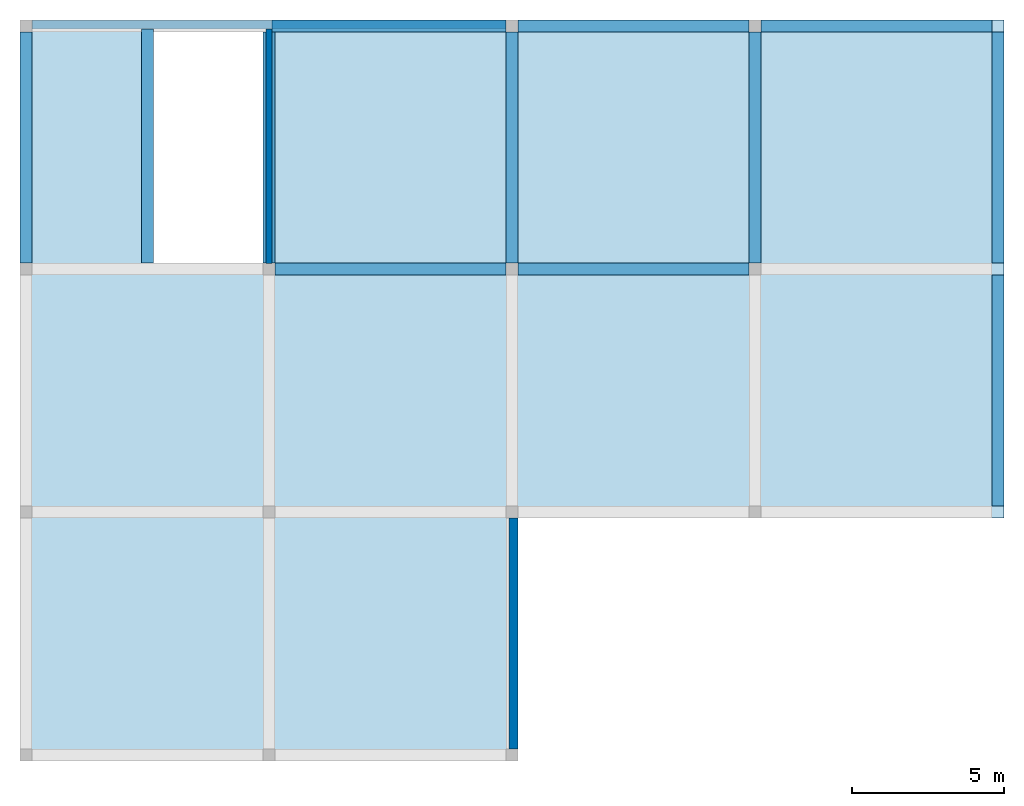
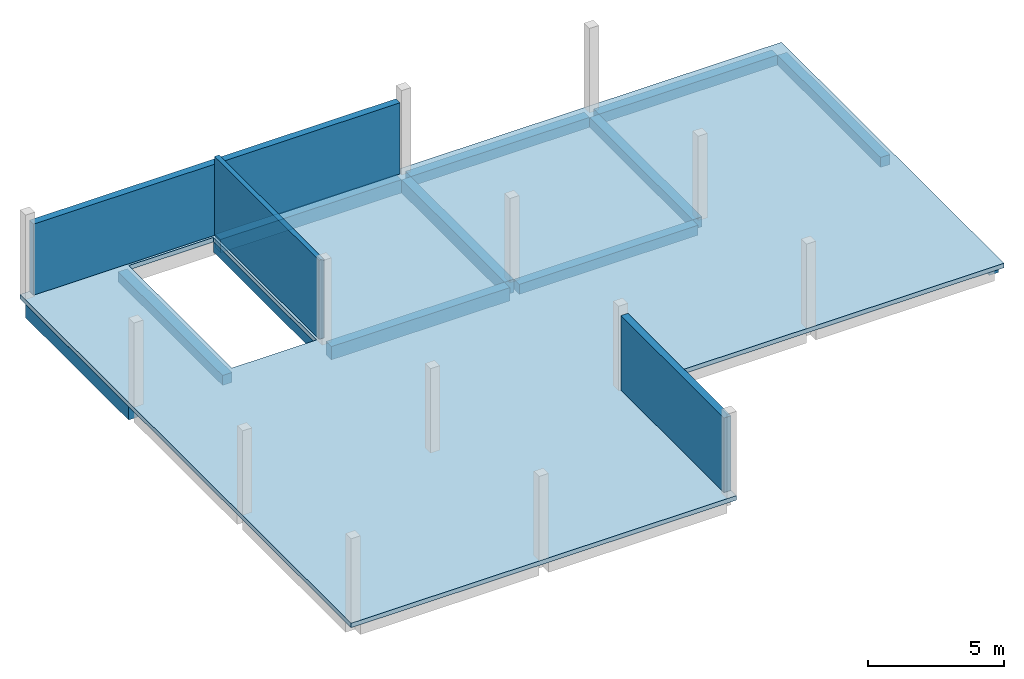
# One storey, part 2 of 3: 12 beams, 3 walls, 1 slab, 1 opening.
"""IFC4X3_ADD2 building model written with IfcOpenShell, lengths in millimetres."""

from ifc_helpers import new_model, entity, si_unit, converted_unit, derived_unit, direction, frame, frame_2d, origin, place, context, subcontext, project, spatial, polyline, rectangle, outline, extrude, boolean, source, transform, mapped, material, layer, layer_set, layer_usage, material_profile, profile_set, type_object, type_shapes, element, save


model = new_model("IFC4X3_ADD2")

# Units and contexts
model_context = context("Model", 3, precision=0.01, world=origin(), true_north=direction((6.123233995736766e-17, 1.0)))
plan_context = context("Plan", 3, precision=0.01, world=origin(), true_north=direction((6.123233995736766e-17, 1.0)))
body_context = subcontext(model_context, "Body", "Model", "MODEL_VIEW")
ifc_project = project(units=[si_unit("LENGTHUNIT", "METRE", prefix="MILLI"), converted_unit("PLANEANGLEUNIT", "DEGREE", entity("IfcPlaneAngleMeasure", 0.017453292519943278), si_unit("PLANEANGLEUNIT", "RADIAN"), dimensions=[0, 0, 0, 0, 0, 0, 0]), si_unit("AREAUNIT", "SQUARE_METRE"), si_unit("VOLUMEUNIT", "CUBIC_METRE"), derived_unit("THERMALTRANSMITTANCEUNIT", [(si_unit("MASSUNIT", "GRAM", prefix="KILO"), 1), (si_unit("THERMODYNAMICTEMPERATUREUNIT", "KELVIN"), -1), (si_unit("TIMEUNIT", "SECOND"), -3)]), derived_unit("USERDEFINED", [(si_unit("MASSUNIT", "GRAM", prefix="KILO"), 1), (si_unit("THERMODYNAMICTEMPERATUREUNIT", "KELVIN"), -1), (si_unit("TIMEUNIT", "SECOND"), -2)]), derived_unit("THERMALRESISTANCEUNIT", [(si_unit("MASSUNIT", "GRAM", prefix="KILO"), -1), (si_unit("TIMEUNIT", "SECOND"), 3), (si_unit("THERMODYNAMICTEMPERATUREUNIT", "KELVIN"), 1)]), si_unit("PRESSUREUNIT", "PASCAL"), derived_unit("MASSDENSITYUNIT", [(si_unit("MASSUNIT", "GRAM", prefix="KILO"), 1), (si_unit("LENGTHUNIT", "METRE"), -3)]), derived_unit("MODULUSOFELASTICITYUNIT", [(si_unit("MASSUNIT", "GRAM", prefix="KILO"), 1), (si_unit("TIMEUNIT", "SECOND"), -2), (si_unit("LENGTHUNIT", "METRE"), -1)]), derived_unit("THERMALEXPANSIONCOEFFICIENTUNIT", [(si_unit("THERMODYNAMICTEMPERATUREUNIT", "KELVIN"), -1)]), derived_unit("VAPORPERMEABILITYUNIT", [(si_unit("LENGTHUNIT", "METRE"), -1), (si_unit("TIMEUNIT", "SECOND"), 1)]), derived_unit("USERDEFINED", [(si_unit("MASSUNIT", "GRAM", prefix="KILO"), 1), (si_unit("TIMEUNIT", "SECOND"), -3), (si_unit("LENGTHUNIT", "METRE"), 3), (si_unit("ELECTRICCURRENTUNIT", "AMPERE"), -2)]), derived_unit("SPECIFICHEATCAPACITYUNIT", [(si_unit("THERMODYNAMICTEMPERATUREUNIT", "KELVIN"), -1), (si_unit("TIMEUNIT", "SECOND"), -2), (si_unit("LENGTHUNIT", "METRE"), 2)]), derived_unit("THERMALCONDUCTANCEUNIT", [(si_unit("MASSUNIT", "GRAM", prefix="KILO"), 1), (si_unit("THERMODYNAMICTEMPERATUREUNIT", "KELVIN"), -1), (si_unit("TIMEUNIT", "SECOND"), -3), (si_unit("LENGTHUNIT", "METRE"), 1)])], contexts=[model_context, plan_context])

# Site, building, storey
site_placement = place(None, origin())
site = spatial("IfcSite", under=ifc_project, at=site_placement, Name="Default", CompositionType="ELEMENT")
building_placement = place(site_placement, origin())
building = spatial("IfcBuilding", under=site, at=building_placement, Name="Building Name", CompositionType="ELEMENT")
storey_placement = place(building_placement, frame((0.0, 0.0, 12000.0)))
storey = spatial("IfcBuildingStorey", under=building, at=storey_placement, Name="L4", CompositionType="ELEMENT", Elevation=12000.00000000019)

# Beams
ifc_material_1 = material(Name="Concrete - Cast-in-Place Concrete", Category="Concrete")
ifc_material_profile_1 = material_profile(ifc_material_1, rectangle(XDim=600.0, YDim=400.0000000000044, at=frame_2d((-1.0942358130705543e-12, 2.842170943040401e-14), x_axis=(0.0, 1.0))), Name="400 x 600mm")
ifc_profile_set_1 = profile_set([ifc_material_profile_1], Name="400 x 600mm")
beam_type_1 = type_object("IfcBeamType", Name="Concrete - Rectangular Beam:400 x 600mm", PredefinedType="BEAM", material=ifc_profile_set_1)
shared_shape_1 = source(origin(), body_context, "Body", "SweptSolid", [
    extrude(rectangle(XDim=600.0, YDim=400.00000000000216, at=frame_2d((-1.0942358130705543e-12, -1.0800249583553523e-12), x_axis=(0.0, 1.0))), frame((-12967.95123677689, 11896.696870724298, 11500.0), z_axis=(0.0, -1.0, 0.0), x_axis=(-1.0, 0.0, 0.0)), (0.0, 0.0, 1.0), 7600.000000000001),
])
type_shapes(beam_type_1, [shared_shape_1])
beam_1_placement = place(storey_placement, frame((0.0, 0.0, -12000.0)))
element("IfcBeam", 1, at=beam_1_placement, inside=storey, type_object=beam_type_1, Name="Concrete - Rectangular Beam:400 x 600mm", ObjectType="Concrete - Rectangular Beam:400 x 600mm", PredefinedType="BEAM", context=body_context, shape_type="MappedRepresentation", body=[
    mapped(shared_shape_1, transform((0.0, 0.0, 0.0), scale=1.0)),
])
beam_type_2 = type_object("IfcBeamType", Name="Concrete - Rectangular Beam:400 x 600mm", PredefinedType="BEAM", material=ifc_profile_set_1)
shared_shape_2 = source(origin(), body_context, "Body", "SweptSolid", [
    extrude(rectangle(XDim=600.0, YDim=400.0000000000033, at=frame_2d((-5.400124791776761e-13, -1.0800249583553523e-12), x_axis=(0.0, 1.0))), frame((3032.0487632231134, 11896.696870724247, 11500.0), z_axis=(0.0, -1.0, 0.0), x_axis=(-1.0, 0.0, 0.0)), (0.0, 0.0, 1.0), 7600.000000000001),
])
type_shapes(beam_type_2, [shared_shape_2])
beam_2_placement = place(storey_placement, frame((0.0, 0.0, -12000.0)))
element("IfcBeam", 2, at=beam_2_placement, inside=storey, type_object=beam_type_2, Name="Concrete - Rectangular Beam:400 x 600mm", ObjectType="Concrete - Rectangular Beam:400 x 600mm", PredefinedType="BEAM", context=body_context, shape_type="MappedRepresentation", body=[
    mapped(shared_shape_2, transform((0.0, 0.0, 0.0), scale=1.0)),
])
ifc_material_profile_2 = material_profile(ifc_material_1, rectangle(XDim=450.0, YDim=400.00000000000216, at=frame_2d((-1.0942358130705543e-12, 2.7000623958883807e-13), x_axis=(0.0, 1.0))), Name="400 x 450mm")
ifc_profile_set_2 = profile_set([ifc_material_profile_2], Name="400 x 450mm")
beam_type_3 = type_object("IfcBeamType", Name="Concrete - Rectangular Beam:400 x 450mm", PredefinedType="BEAM", material=ifc_profile_set_2)
shared_shape_3 = source(origin(), body_context, "Body", "SweptSolid", [
    extrude(rectangle(XDim=449.9999999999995, YDim=400.00000000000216, at=frame_2d((-1.0942358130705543e-12, -1.0800249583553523e-12), x_axis=(0.0, 1.0))), frame((11032.048763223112, 11896.696870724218, 11575.0), z_axis=(0.0, -1.0, 0.0), x_axis=(-1.0, 0.0, 0.0)), (0.0, 0.0, 1.0), 7599.999999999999),
])
type_shapes(beam_type_3, [shared_shape_3])
beam_3_placement = place(storey_placement, frame((0.0, 0.0, -12000.0)))
element("IfcBeam", 3, at=beam_3_placement, inside=storey, type_object=beam_type_3, Name="Concrete - Rectangular Beam:400 x 450mm", ObjectType="Concrete - Rectangular Beam:400 x 450mm", PredefinedType="BEAM", context=body_context, shape_type="MappedRepresentation", body=[
    mapped(shared_shape_3, transform((0.0, 0.0, 0.0), scale=1.0)),
])
beam_type_4 = type_object("IfcBeamType", Name="Concrete - Rectangular Beam:400 x 450mm", PredefinedType="BEAM", material=ifc_profile_set_2)
shared_shape_4 = source(origin(), body_context, "Body", "SweptSolid", [
    extrude(rectangle(XDim=449.9999999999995, YDim=400.00000000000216, at=frame_2d((-1.0942358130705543e-12, -1.0800249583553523e-12), x_axis=(0.0, 1.0))), frame((19032.048763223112, 11896.696870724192, 11575.0), z_axis=(0.0, -1.0, 0.0), x_axis=(-1.0, 0.0, 0.0)), (0.0, 0.0, 1.0), 7599.999999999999),
])
type_shapes(beam_type_4, [shared_shape_4])
beam_4_placement = place(storey_placement, frame((0.0, 0.0, -12000.0)))
element("IfcBeam", 4, at=beam_4_placement, inside=storey, type_object=beam_type_4, Name="Concrete - Rectangular Beam:400 x 450mm", ObjectType="Concrete - Rectangular Beam:400 x 450mm", PredefinedType="BEAM", context=body_context, shape_type="MappedRepresentation", body=[
    mapped(shared_shape_4, transform((0.0, 0.0, 0.0), scale=1.0)),
])
beam_type_5 = type_object("IfcBeamType", Name="Concrete - Rectangular Beam:400 x 450mm", PredefinedType="BEAM", material=ifc_profile_set_2)
shared_shape_5 = source(origin(), body_context, "Body", "SweptSolid", [
    extrude(rectangle(XDim=449.9999999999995, YDim=400.00000000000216, at=frame_2d((-1.0942358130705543e-12, -1.0800249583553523e-12), x_axis=(0.0, 1.0))), frame((19032.048763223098, 3896.6968707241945, 11575.0), z_axis=(0.0, -1.0, 0.0), x_axis=(-1.0, 0.0, 0.0)), (0.0, 0.0, 1.0), 7600.000000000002),
])
type_shapes(beam_type_5, [shared_shape_5])
beam_5_placement = place(storey_placement, frame((0.0, 0.0, -12000.0)))
element("IfcBeam", 5, at=beam_5_placement, inside=storey, type_object=beam_type_5, Name="Concrete - Rectangular Beam:400 x 450mm", ObjectType="Concrete - Rectangular Beam:400 x 450mm", PredefinedType="BEAM", context=body_context, shape_type="MappedRepresentation", body=[
    mapped(shared_shape_5, transform((0.0, 0.0, 0.0), scale=1.0)),
])
beam_type_6 = type_object("IfcBeamType", Name="Concrete - Rectangular Beam:400 x 450mm", PredefinedType="BEAM", material=ifc_profile_set_2)
shared_shape_6 = source(origin(), body_context, "Body", "SweptSolid", [
    extrude(rectangle(XDim=449.9999999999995, YDim=400.0000000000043, at=frame_2d((-1.0800249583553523e-12, -1.0800249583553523e-12), x_axis=(1.0, 0.0))), frame((3232.0487632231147, 12096.696870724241, 11575.0), z_axis=(1.0, 0.0, 0.0), x_axis=(0.0, 0.0, -1.0)), (0.0, 0.0, 1.0), 7600.000000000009),
])
type_shapes(beam_type_6, [shared_shape_6])
beam_6_placement = place(storey_placement, frame((0.0, 0.0, -12000.0)))
element("IfcBeam", 6, at=beam_6_placement, inside=storey, type_object=beam_type_6, Name="Concrete - Rectangular Beam:400 x 450mm", ObjectType="Concrete - Rectangular Beam:400 x 450mm", PredefinedType="BEAM", context=body_context, shape_type="MappedRepresentation", body=[
    mapped(shared_shape_6, transform((0.0, 0.0, 0.0), scale=1.0)),
])
beam_type_7 = type_object("IfcBeamType", Name="Concrete - Rectangular Beam:400 x 450mm", PredefinedType="BEAM", material=ifc_profile_set_2)
shared_shape_7 = source(origin(), body_context, "Body", "SweptSolid", [
    extrude(rectangle(XDim=449.9999999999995, YDim=400.0000000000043, at=frame_2d((-1.0800249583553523e-12, -1.0800249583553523e-12), x_axis=(1.0, 0.0))), frame((11232.048763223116, 12096.696870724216, 11575.0), z_axis=(1.0, 0.0, 0.0), x_axis=(0.0, 0.0, -1.0)), (0.0, 0.0, 1.0), 7600.00000000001),
])
type_shapes(beam_type_7, [shared_shape_7])
beam_7_placement = place(storey_placement, frame((0.0, 0.0, -12000.0)))
element("IfcBeam", 7, at=beam_7_placement, inside=storey, type_object=beam_type_7, Name="Concrete - Rectangular Beam:400 x 450mm", ObjectType="Concrete - Rectangular Beam:400 x 450mm", PredefinedType="BEAM", context=body_context, shape_type="MappedRepresentation", body=[
    mapped(shared_shape_7, transform((0.0, 0.0, 0.0), scale=1.0)),
])
beam_type_8 = type_object("IfcBeamType", Name="Concrete - Rectangular Beam:400 x 450mm", PredefinedType="BEAM", material=ifc_profile_set_2)
shared_shape_8 = source(origin(), body_context, "Body", "SweptSolid", [
    extrude(rectangle(XDim=449.9999999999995, YDim=400.0000000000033, at=frame_2d((-1.0800249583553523e-12, 0.0), x_axis=(1.0, 0.0))), frame((3232.048763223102, 4096.696870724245, 11575.0), z_axis=(1.0, 0.0, 0.0), x_axis=(0.0, 0.0, -1.0)), (0.0, 0.0, 1.0), 7600.000000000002),
])
type_shapes(beam_type_8, [shared_shape_8])
beam_8_placement = place(storey_placement, frame((0.0, 0.0, -12000.0)))
element("IfcBeam", 8, at=beam_8_placement, inside=storey, type_object=beam_type_8, Name="Concrete - Rectangular Beam:400 x 450mm", ObjectType="Concrete - Rectangular Beam:400 x 450mm", PredefinedType="BEAM", context=body_context, shape_type="MappedRepresentation", body=[
    mapped(shared_shape_8, transform((0.0, 0.0, 0.0), scale=1.0)),
])
beam_type_9 = type_object("IfcBeamType", Name="Concrete - Rectangular Beam:400 x 600mm", PredefinedType="BEAM", material=ifc_profile_set_1)
shared_shape_9 = source(origin(), body_context, "Body", "SweptSolid", [
    extrude(rectangle(XDim=600.0, YDim=400.0000000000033, at=frame_2d((-1.0800249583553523e-12, 0.0), x_axis=(1.0, 0.0))), frame((-4767.951236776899, 4096.69687072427, 11500.0), z_axis=(1.0, 0.0, 0.0), x_axis=(0.0, 0.0, -1.0)), (0.0, 0.0, 1.0), 7600.000000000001),
])
type_shapes(beam_type_9, [shared_shape_9])
beam_9_placement = place(storey_placement, frame((0.0, 0.0, -12000.0)))
element("IfcBeam", 9, at=beam_9_placement, inside=storey, type_object=beam_type_9, Name="Concrete - Rectangular Beam:400 x 600mm", ObjectType="Concrete - Rectangular Beam:400 x 600mm", PredefinedType="BEAM", context=body_context, shape_type="MappedRepresentation", body=[
    mapped(shared_shape_9, transform((0.0, 0.0, 0.0), scale=1.0)),
])
beam_type_10 = type_object("IfcBeamType", Name="Concrete - Rectangular Beam:400 x 450mm", PredefinedType="BEAM", material=ifc_profile_set_2)
shared_shape_10 = source(origin(), body_context, "Body", "SweptSolid", [
    extrude(rectangle(XDim=449.9999999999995, YDim=400.0000000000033, at=frame_2d((-5.400124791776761e-13, 1.0800249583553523e-12), x_axis=(0.0, 1.0))), frame((-8967.951236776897, 4296.6968707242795, 11575.0), z_axis=(0.0, 1.0, 0.0), x_axis=(-1.0, 0.0, 0.0)), (0.0, 0.0, 1.0), 7700.000000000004),
])
type_shapes(beam_type_10, [shared_shape_10])
beam_10_placement = place(storey_placement, frame((0.0, 0.0, -12000.0)))
element("IfcBeam", 10, at=beam_10_placement, inside=storey, type_object=beam_type_10, Name="Concrete - Rectangular Beam:400 x 450mm", ObjectType="Concrete - Rectangular Beam:400 x 450mm", PredefinedType="BEAM", context=body_context, shape_type="MappedRepresentation", body=[
    mapped(shared_shape_10, transform((0.0, 0.0, 0.0), scale=1.0)),
])
beam_type_11 = type_object("IfcBeamType", Name="Concrete - Rectangular Beam:400 x 600mm", PredefinedType="BEAM", material=ifc_profile_set_1)
shared_shape_11 = source(origin(), body_context, "Body", "SweptSolid", [
    extrude(rectangle(XDim=600.0, YDim=400.00000000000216, at=frame_2d((-1.0800249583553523e-12, 1.0942358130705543e-12), x_axis=(1.0, 0.0))), frame((-4867.951236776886, 12096.696870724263, 11500.0), z_axis=(1.0, 0.0, 0.0), x_axis=(0.0, 0.0, -1.0)), (0.0, 0.0, 1.0), 7700.000000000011),
])
type_shapes(beam_type_11, [shared_shape_11])
beam_11_placement = place(storey_placement, frame((0.0, 0.0, -12000.0)))
element("IfcBeam", 11, at=beam_11_placement, inside=storey, type_object=beam_type_11, Name="Concrete - Rectangular Beam:400 x 600mm", ObjectType="Concrete - Rectangular Beam:400 x 600mm", PredefinedType="BEAM", context=body_context, shape_type="MappedRepresentation", body=[
    mapped(shared_shape_11, transform((0.0, 0.0, 0.0), scale=1.0)),
])
beam_type_12 = type_object("IfcBeamType", Name="Concrete - Rectangular Beam:400 x 450mm", PredefinedType="BEAM", material=ifc_profile_set_2)
shared_shape_12 = source(origin(), body_context, "Body", "SweptSolid", [
    extrude(outline(polyline([(100.0, -162.4999999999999), (200.0, -162.4999999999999), (200.0, 287.4999999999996), (-200.0, 287.4999999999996), (-200.0, -162.4999999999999), (-100.0, -162.4999999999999), (-100.0, 37.500000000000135), (100.0, 37.500000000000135), (100.0, -162.4999999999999)])), frame((-4967.951236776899, 4296.69687072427, 11512.500000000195), z_axis=(0.0, 1.0, 0.0), x_axis=(-1.0, 0.0, 0.0)), (0.0, 0.0, 1.0), 7599.999999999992),
])
type_shapes(beam_type_12, [shared_shape_12])
beam_12_placement = place(storey_placement, frame((0.0, 0.0, -12000.0)))
element("IfcBeam", 12, at=beam_12_placement, inside=storey, type_object=beam_type_12, Name="Concrete - Rectangular Beam:400 x 450mm", ObjectType="Concrete - Rectangular Beam:400 x 450mm", PredefinedType="BEAM", context=body_context, shape_type="MappedRepresentation", body=[
    mapped(shared_shape_12, transform((0.0, 0.0, 0.0), scale=1.0)),
])

# Slab, opening
ifc_material_2 = material(Name="Default Floor", Category="Miscellaneous")
ifc_layer_1 = layer(ifc_material_2, 200.0, Name="Layer", Category="Miscellaneous")
ifc_layer_set_1 = layer_set([ifc_layer_1], Name="Floor:Generic 200mm")
ifc_layer_usage = layer_usage(ifc_layer_set_1, "AXIS3", "POSITIVE", 0.0)
slab_type = type_object("IfcSlabType", Name="Floor:Generic 200mm", PredefinedType="FLOOR", material=ifc_layer_set_1)
slab_placement = place(storey_placement, origin())
slab = element("IfcSlab", 13, at=slab_placement, inside=storey, type_object=slab_type, material=ifc_layer_usage, Name="Floor:Generic 200mm", ObjectType="Floor:Generic 200mm", PredefinedType="FLOOR", context=body_context, shape_type="SweptSolid", body=[
    boolean("DIFFERENCE", extrude(outline(polyline([(-10800.0, -16266.66666666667), (13600.0, -16266.66666666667), (13600.0, 16133.333333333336), (-2800.0, 16133.33333333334), (-2800.0, 133.3333333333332), (-10800.0, 133.33333333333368), (-10800.0, -16266.66666666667)])), frame((3098.715429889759, -1303.3031292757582, 0.0), z_axis=(0.0, 0.0, -1.0), x_axis=(0.0, 1.0, 0.0)), (0.0, 0.0, 1.0), 200.0), extrude(rectangle(XDim=7600.000000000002, YDim=3599.999999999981, at=frame_2d((-4.547473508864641e-13, 0.0), x_axis=(1.0, 0.0))), frame((-6967.95123677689, 8096.696870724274, -200.0), z_axis=(0.0, 0.0, 1.0), x_axis=(0.0, 1.0, 0.0)), (0.0, 0.0, 1.0), 200.0)),
])
opening_placement = place(slab_placement, origin())
element("IfcOpeningElement", 14, at=opening_placement, cuts=slab, Name="Floor:Generic 200mm", PredefinedType="OPENING", context=body_context, shape_type="SweptSolid", body=[
    extrude(rectangle(XDim=7600.000000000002, YDim=3599.999999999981, at=frame_2d((4.547473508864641e-13, 0.0), x_axis=(1.0, 0.0))), frame((-6967.95123677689, 8096.696870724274, 0.0), z_axis=(0.0, 0.0, -1.0), x_axis=(0.0, -1.0, 0.0)), (0.0, 0.0, 1.0), 200.0),
])

# Walls
ifc_material_3 = material(Name="Default Wall", Category="Miscellaneous")
ifc_layer_2 = layer(ifc_material_3, 300.0, Name="Layer", Category="Miscellaneous")
ifc_layer_set_2 = layer_set([ifc_layer_2], Name="Basic Wall:Generic - 300mm")
wall_type_1 = type_object("IfcWallType", Name="Basic Wall:Generic - 300mm", PredefinedType="STANDARD", material=ifc_layer_set_2)
wall_1_placement = place(storey_placement, frame((3082.0487632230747, -11703.303129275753, 0.0), z_axis=(0.0, 0.0, 1.0), x_axis=(0.0, 1.0, 0.0)))
element("IfcWall", 15, at=wall_1_placement, inside=storey, type_object=wall_type_1, material=ifc_layer_set_2, Name="Basic Wall:Generic - 300mm", ObjectType="Basic Wall:Generic - 300mm", PredefinedType="NOTDEFINED", context=body_context, shape_type="SweptSolid", body=[
    extrude(rectangle(XDim=7599.999999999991, YDim=300.0, at=frame_2d((3799.9999999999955, 2.2737367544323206e-13), x_axis=(-1.0, 0.0))), origin(), (0.0, 0.0, 1.0), 3350.000000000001),
])
wall_2_placement = place(storey_placement, frame((-12767.951236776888, 12146.696870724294, 0.0)))
element("IfcWall", 16, at=wall_2_placement, inside=storey, type_object=wall_type_1, material=ifc_layer_set_2, Name="Basic Wall:Generic - 300mm", ObjectType="Basic Wall:Generic - 300mm", PredefinedType="NOTDEFINED", context=body_context, shape_type="SweptSolid", body=[
    extrude(rectangle(XDim=15600.000000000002, YDim=300.00000000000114, at=frame_2d((7800.000000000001, 1.0516032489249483e-12), x_axis=(-1.0, 0.0))), origin(), (0.0, 0.0, 1.0), 3200.0),
])
ifc_layer_3 = layer(ifc_material_3, 200.0, Name="Layer", Category="Miscellaneous")
ifc_layer_set_3 = layer_set([ifc_layer_3], Name="Basic Wall:Generic - 200mm")
wall_type_2 = type_object("IfcWallType", Name="Basic Wall:Generic - 200mm", PredefinedType="STANDARD", material=ifc_layer_set_3)
wall_3_placement = place(storey_placement, frame((-4967.951236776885, 11996.696870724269, 0.0), z_axis=(0.0, 0.0, 1.0), x_axis=(0.0, -1.0, 0.0)))
element("IfcWall", 17, at=wall_3_placement, inside=storey, type_object=wall_type_2, material=ifc_layer_set_3, Name="Basic Wall:Generic - 200mm", ObjectType="Basic Wall:Generic - 200mm", PredefinedType="NOTDEFINED", context=body_context, shape_type="SweptSolid", body=[
    extrude(rectangle(XDim=7709.999999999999, YDim=200.00000000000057, at=frame_2d((3854.9999999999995, 3.552713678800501e-14), x_axis=(-1.0, 0.0))), origin(), (0.0, 0.0, 1.0), 3549.9999999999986),
])

save(model, "model.ifc")
